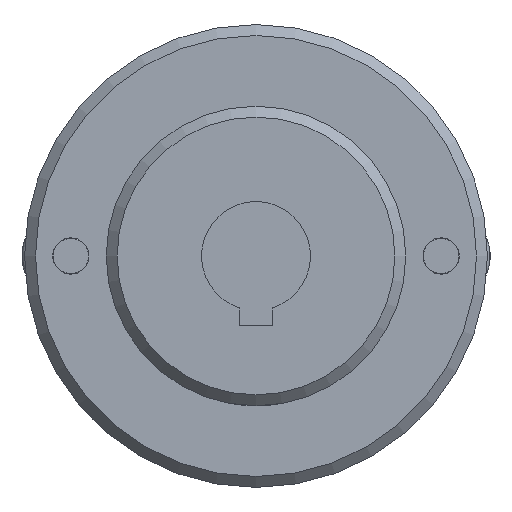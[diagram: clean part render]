
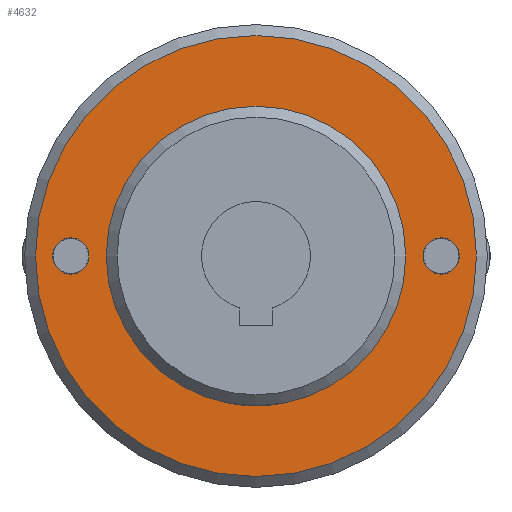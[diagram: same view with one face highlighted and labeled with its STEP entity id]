
A CAD part, left-side view. The second image highlights one B-rep face of the part: STEP entity #4632.
In plain terms, the highlighted planar face has unit normal (-1, 0, 0) as drawn and (0, 1, 0) by its records, which use the part's own axes.
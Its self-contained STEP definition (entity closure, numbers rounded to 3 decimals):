
#918=FACE_BOUND('',#1547,.T.);
#919=FACE_BOUND('',#1548,.T.);
#920=FACE_BOUND('',#1549,.T.);
#1213=FACE_OUTER_BOUND('',#1546,.T.);
#1546=EDGE_LOOP('',(#4214));
#1547=EDGE_LOOP('',(#4215));
#1548=EDGE_LOOP('',(#4216));
#1549=EDGE_LOOP('',(#4217));
#1887=CIRCLE('',#5419,27.5);
#1888=CIRCLE('',#5422,40.5);
#1891=CIRCLE('',#5427,3.324);
#1892=CIRCLE('',#5428,3.324);
#2272=VERTEX_POINT('',#9781);
#2276=VERTEX_POINT('',#9828);
#2279=VERTEX_POINT('',#9838);
#2280=VERTEX_POINT('',#9840);
#2922=EDGE_CURVE('',#2272,#2272,#1887,.T.);
#2926=EDGE_CURVE('',#2276,#2276,#1888,.T.);
#2931=EDGE_CURVE('',#2279,#2279,#1891,.T.);
#2932=EDGE_CURVE('',#2280,#2280,#1892,.T.);
#4214=ORIENTED_EDGE('',*,*,#2926,.F.);
#4215=ORIENTED_EDGE('',*,*,#2922,.F.);
#4216=ORIENTED_EDGE('',*,*,#2931,.T.);
#4217=ORIENTED_EDGE('',*,*,#2932,.T.);
#4344=PLANE('',#5426);
#4632=ADVANCED_FACE('',(#1213,#918,#919,#920),#4344,.T.);
#5419=AXIS2_PLACEMENT_3D('',#9783,#6832,#6833);
#5422=AXIS2_PLACEMENT_3D('',#9829,#6838,#6839);
#5426=AXIS2_PLACEMENT_3D('',#9837,#6848,#6849);
#5427=AXIS2_PLACEMENT_3D('',#9839,#6850,#6851);
#5428=AXIS2_PLACEMENT_3D('',#9841,#6852,#6853);
#6832=DIRECTION('center_axis',(0.,1.,0.));
#6833=DIRECTION('ref_axis',(-1.,0.,0.));
#6838=DIRECTION('center_axis',(0.,-1.,0.));
#6839=DIRECTION('ref_axis',(1.,0.,0.));
#6848=DIRECTION('center_axis',(0.,1.,0.));
#6849=DIRECTION('ref_axis',(0.,0.,1.));
#6850=DIRECTION('center_axis',(0.,-1.,0.));
#6851=DIRECTION('ref_axis',(1.,0.,0.));
#6852=DIRECTION('center_axis',(0.,-1.,0.));
#6853=DIRECTION('ref_axis',(1.,0.,0.));
#9781=CARTESIAN_POINT('',(27.5,8.,0.));
#9783=CARTESIAN_POINT('Origin',(0.,8.,
0.));
#9828=CARTESIAN_POINT('',(-40.5,8.,0.));
#9829=CARTESIAN_POINT('Origin',(0.,8.,
0.));
#9837=CARTESIAN_POINT('Origin',(-35.,8.,0.));
#9838=CARTESIAN_POINT('',(-37.324,8.,0.));
#9839=CARTESIAN_POINT('Origin',(-34.,8.,0.));
#9840=CARTESIAN_POINT('',(30.677,8.,0.));
#9841=CARTESIAN_POINT('Origin',(34.,8.,0.));
